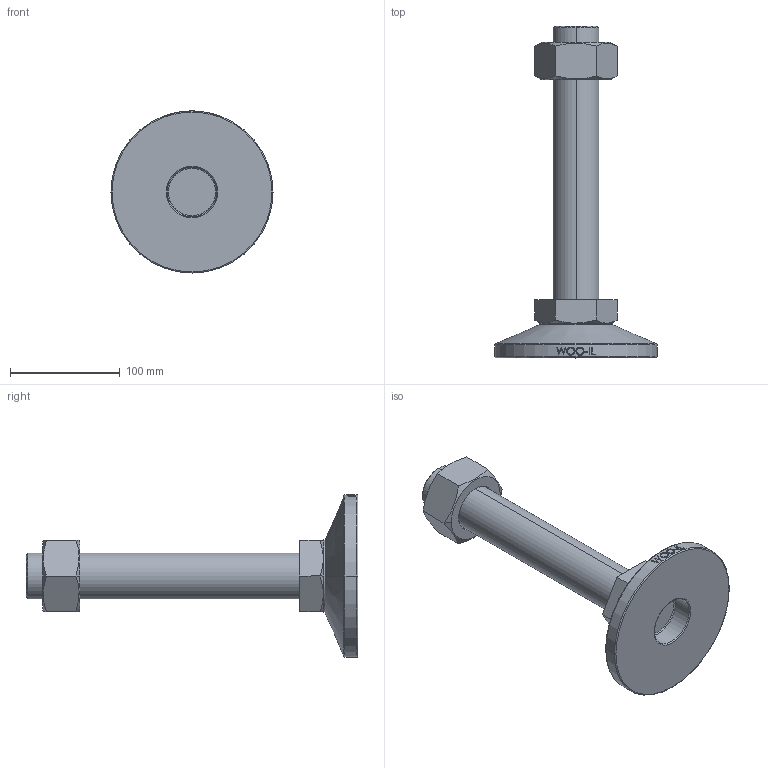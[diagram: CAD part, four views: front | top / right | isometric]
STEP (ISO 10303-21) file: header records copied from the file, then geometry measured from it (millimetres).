
FILE_DESCRIPTION (( 'STEP AP214' ), '1' );
FILE_NAME ('MF148-M42-250.step', '2021-02-03T08:16:01', ( '' ), ( '' ), 'SwSTEP 2.0', 'SolidWorks 2019', '' );
FILE_SCHEMA (( 'AUTOMOTIVE_DESIGN' ));
Length unit declared in the file: millimetre
Products named in the file (2): MF148-M42-250
Bounding box: 148 x 303 x 148 mm (x, y, z)
Volume: 856917.1 mm3; surface area: 104952.6 mm2
Topology: 3 solids, 3 shells, 106 faces, 243 edges, 154 vertices
Faces by surface type: plane 48, cylinder 18, bspline 16, cone 14, torus 10
Entity records: 4562 total; most frequent: CARTESIAN_POINT 2219, ORIENTED_EDGE 486, DIRECTION 439, EDGE_CURVE 243, AXIS2_PLACEMENT_3D 170, VERTEX_POINT 154, EDGE_LOOP 119, ADVANCED_FACE 106
